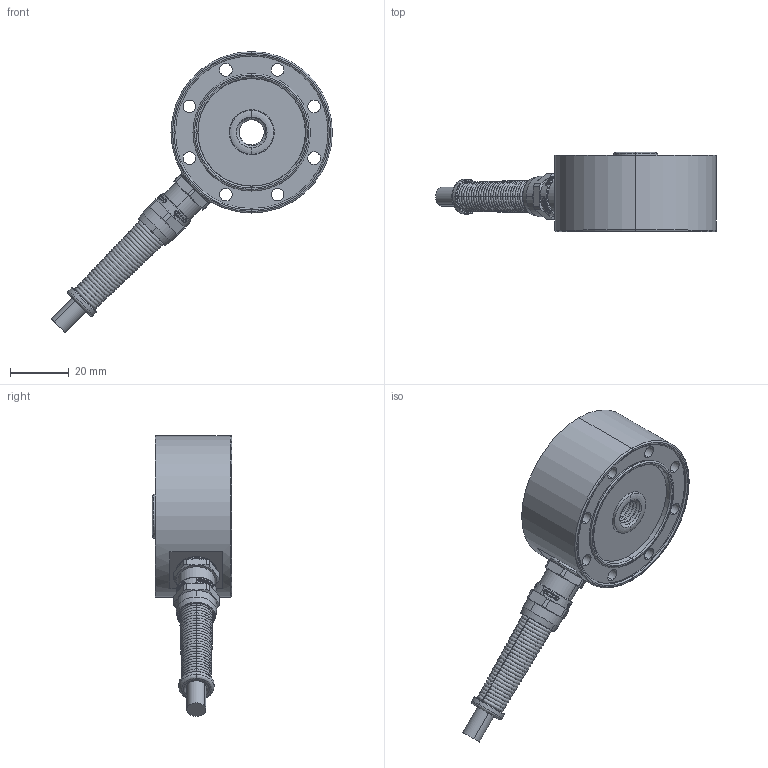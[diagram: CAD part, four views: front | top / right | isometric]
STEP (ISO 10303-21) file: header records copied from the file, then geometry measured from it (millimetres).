
FILE_DESCRIPTION (( 'STEP AP203' ), '1' );
FILE_NAME ('KR55.STEP', '2021-02-18T08:18:42', ( '' ), ( '' ), 'SwSTEP 2.0', 'SolidWorks 2018', '' );
FILE_SCHEMA (( 'CONFIG_CONTROL_DESIGN' ));
Length unit declared in the file: millimetre
Products named in the file (5): NT-2019-00111_2,1m konfektioniert; KR55; E-2020-0022-00485; E-2020-0022-00483_K-Modell; NT-2019-00112
Assembly tree (5 placements, depth 2):
  KR55
    E-2020-0022-00483_K-Modell
    E-2020-0022-00485  x2
    NT-2019-00112
    NT-2019-00111_2,1m konfektioniert
Bounding box: 95.68 x 27 x 95.68 mm (x, y, z)
Volume: 48808.8 mm3; surface area: 27900.4 mm2
Topology: 4 solids, 25 shells, 735 faces, 1838 edges, 1185 vertices
Faces by surface type: plane 368, cylinder 210, bspline 81, cone 64, torus 12
Entity records: 27246 total; most frequent: CARTESIAN_POINT 9666, ORIENTED_EDGE 3626, DIRECTION 3509, EDGE_CURVE 1838, AXIS2_PLACEMENT_3D 1407, VERTEX_POINT 1180, EDGE_LOOP 816, CIRCLE 750
